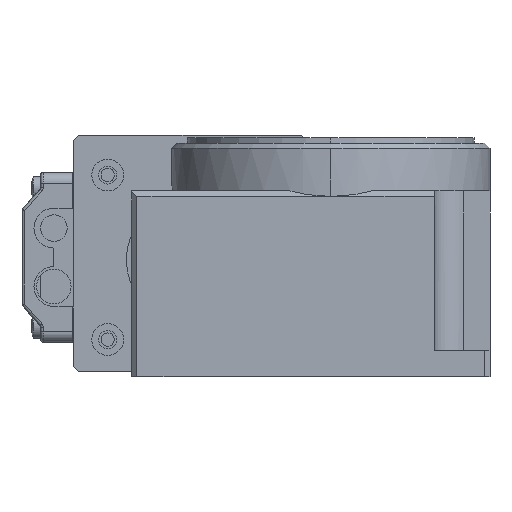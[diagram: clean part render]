
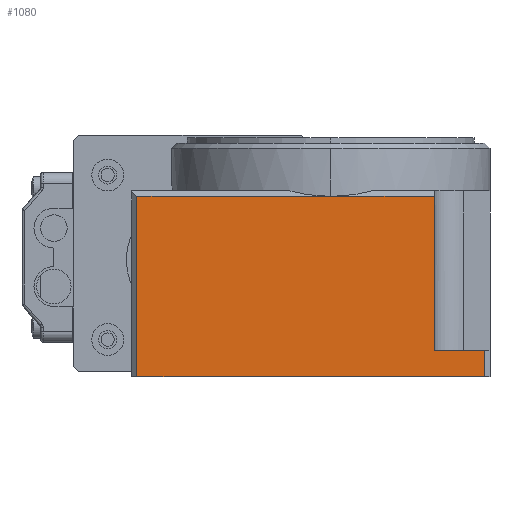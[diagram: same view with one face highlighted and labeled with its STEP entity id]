
A CAD part, left-side view. The second image highlights one B-rep face of the part: STEP entity #1080.
In plain terms, the highlighted planar face has unit normal (-1, 0, 0).
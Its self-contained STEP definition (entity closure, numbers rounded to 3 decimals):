
#42 = ORIENTED_EDGE ( 'NONE', *, *, #7471, .F. ) ;
#694 = PLANE ( 'NONE',  #13174 ) ;
#1043 = ORIENTED_EDGE ( 'NONE', *, *, #1093, .F. ) ;
#1080 = ADVANCED_FACE ( 'NONE', ( #25966 ), #694, .F. ) ;
#1093 = EDGE_CURVE ( 'NONE', #8652, #15812, #22098, .T. ) ;
#2377 = LINE ( 'NONE', #8976, #32305 ) ;
#3173 = CARTESIAN_POINT ( 'NONE',  ( -64.202, 40.668, 159. ) ) ;
#3874 = CARTESIAN_POINT ( 'NONE',  ( -64.202, -15.332, 159. ) ) ;
#4125 = DIRECTION ( 'NONE',  ( 0., -1., 0. ) ) ;
#4473 = LINE ( 'NONE', #29603, #24837 ) ;
#4904 = CARTESIAN_POINT ( 'NONE',  ( -64.202, -25.832, 159. ) ) ;
#5566 = CARTESIAN_POINT ( 'NONE',  ( -64.202, 4.168, 159. ) ) ;
#5753 = VERTEX_POINT ( 'NONE', #3173 ) ;
#6348 = EDGE_CURVE ( 'NONE', #36958, #16855, #35761, .T. ) ;
#7471 = EDGE_CURVE ( 'NONE', #35552, #36958, #14951, .T. ) ;
#7616 = CARTESIAN_POINT ( 'NONE',  ( -64.202, -25.832, 159. ) ) ;
#7783 = EDGE_CURVE ( 'NONE', #19461, #8652, #13991, .T. ) ;
#8406 = ORIENTED_EDGE ( 'NONE', *, *, #28330, .F. ) ;
#8652 = VERTEX_POINT ( 'NONE', #3874 ) ;
#8976 = CARTESIAN_POINT ( 'NONE',  ( -64.202, 40.668, 170. ) ) ;
#9134 = DIRECTION ( 'NONE',  ( 0., 0., -1. ) ) ;
#11140 = DIRECTION ( 'NONE',  ( 0., -1., 0. ) ) ;
#11455 = CARTESIAN_POINT ( 'NONE',  ( -64.202, 7.918, 125. ) ) ;
#12286 = CARTESIAN_POINT ( 'NONE',  ( -64.202, 40.668, 125. ) ) ;
#12536 = CARTESIAN_POINT ( 'NONE',  ( -64.202, -24.832, 170. ) ) ;
#13174 = AXIS2_PLACEMENT_3D ( 'NONE', #28398, #16641, #37852 ) ;
#13916 = VECTOR ( 'NONE', #25841, 1000. ) ;
#13991 = LINE ( 'NONE', #4904, #15884 ) ;
#14034 = DIRECTION ( 'NONE',  ( 0., -1., 0. ) ) ;
#14318 = EDGE_CURVE ( 'NONE', #15812, #35552, #4473, .T. ) ;
#14543 = CARTESIAN_POINT ( 'NONE',  ( -64.202, -24.832, 125. ) ) ;
#14681 = ORIENTED_EDGE ( 'NONE', *, *, #25244, .F. ) ;
#14951 = LINE ( 'NONE', #12536, #27964 ) ;
#15812 = VERTEX_POINT ( 'NONE', #28261 ) ;
#15884 = VECTOR ( 'NONE', #14034, 1000. ) ;
#16210 = ORIENTED_EDGE ( 'NONE', *, *, #7783, .F. ) ;
#16641 = DIRECTION ( 'NONE',  ( 1., 0., 0. ) ) ;
#16855 = VERTEX_POINT ( 'NONE', #12286 ) ;
#18118 = LINE ( 'NONE', #7616, #39874 ) ;
#19461 = VERTEX_POINT ( 'NONE', #5566 ) ;
#19639 = ORIENTED_EDGE ( 'NONE', *, *, #6348, .F. ) ;
#19733 = CARTESIAN_POINT ( 'NONE',  ( -64.202, -15.332, 170. ) ) ;
#22098 = LINE ( 'NONE', #19733, #13916 ) ;
#23905 = DIRECTION ( 'NONE',  ( 0., 1., 0. ) ) ;
#24837 = VECTOR ( 'NONE', #11140, 1000. ) ;
#25244 = EDGE_CURVE ( 'NONE', #16855, #5753, #2377, .T. ) ;
#25841 = DIRECTION ( 'NONE',  ( 0., 0., -1. ) ) ;
#25966 = FACE_OUTER_BOUND ( 'NONE', #30679, .T. ) ;
#27964 = VECTOR ( 'NONE', #9134, 1000. ) ;
#28261 = CARTESIAN_POINT ( 'NONE',  ( -64.202, -15.332, 130. ) ) ;
#28330 = EDGE_CURVE ( 'NONE', #5753, #19461, #18118, .T. ) ;
#28398 = CARTESIAN_POINT ( 'NONE',  ( -64.202, -25.832, 170. ) ) ;
#29082 = CARTESIAN_POINT ( 'NONE',  ( -64.202, -24.832, 130. ) ) ;
#29603 = CARTESIAN_POINT ( 'NONE',  ( -64.202, -25.832, 130. ) ) ;
#30679 = EDGE_LOOP ( 'NONE', ( #16210, #8406, #14681, #19639, #42, #36107, #1043 ) ) ;
#32305 = VECTOR ( 'NONE', #36254, 1000. ) ;
#33805 = VECTOR ( 'NONE', #23905, 1000. ) ;
#35552 = VERTEX_POINT ( 'NONE', #29082 ) ;
#35761 = LINE ( 'NONE', #11455, #33805 ) ;
#36107 = ORIENTED_EDGE ( 'NONE', *, *, #14318, .F. ) ;
#36254 = DIRECTION ( 'NONE',  ( 0., 0., 1. ) ) ;
#36958 = VERTEX_POINT ( 'NONE', #14543 ) ;
#37852 = DIRECTION ( 'NONE',  ( 0., 0., -1. ) ) ;
#39874 = VECTOR ( 'NONE', #4125, 1000. ) ;
